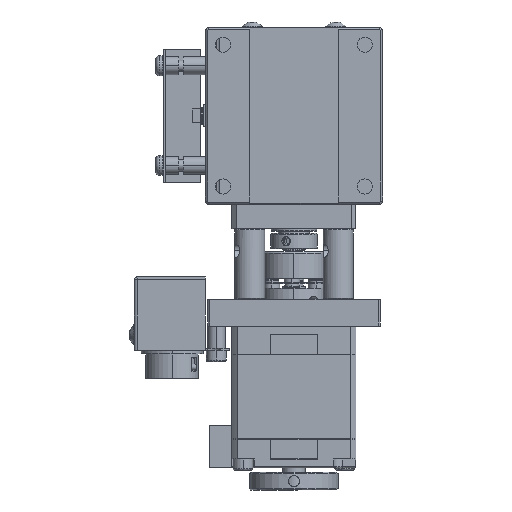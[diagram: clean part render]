
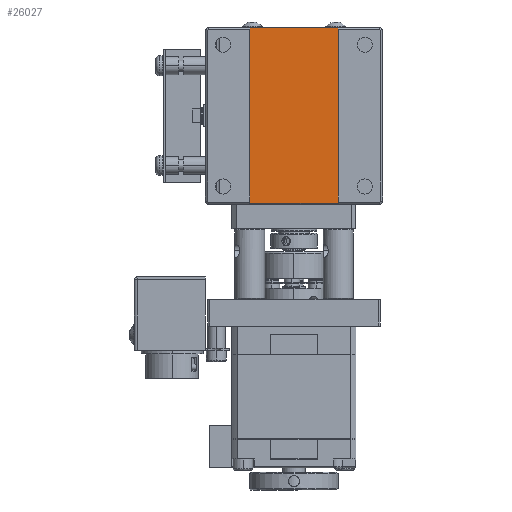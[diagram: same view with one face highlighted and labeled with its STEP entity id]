
A CAD part, front view. The second image highlights one B-rep face of the part: STEP entity #26027.
In plain terms, the highlighted planar face has unit normal (0, -1, 0).
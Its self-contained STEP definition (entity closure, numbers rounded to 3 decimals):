
#1515 = DIRECTION ( 'NONE',  ( 0., -1., 0. ) ) ;
#4063 = EDGE_CURVE ( 'NONE', #49009, #51274, #23415, .T. ) ;
#4981 = CARTESIAN_POINT ( 'NONE',  ( -14.516, -14.526, 37.978 ) ) ;
#6159 = CARTESIAN_POINT ( 'NONE',  ( -44.516, -14.526, 37.778 ) ) ;
#6294 = CARTESIAN_POINT ( 'NONE',  ( -34.516, -14.526, 37.978 ) ) ;
#8362 = CARTESIAN_POINT ( 'NONE',  ( -14.516, -14.526, 77.578 ) ) ;
#8660 = VECTOR ( 'NONE', #15676, 1000. ) ;
#9857 = VECTOR ( 'NONE', #41729, 1000. ) ;
#12097 = VERTEX_POINT ( 'NONE', #22425 ) ;
#14746 = CARTESIAN_POINT ( 'NONE',  ( -44.516, -14.526, 37.978 ) ) ;
#15315 = LINE ( 'NONE', #31393, #61172 ) ;
#15676 = DIRECTION ( 'NONE',  ( -1., 0., 0. ) ) ;
#15723 = FACE_OUTER_BOUND ( 'NONE', #59191, .T. ) ;
#17961 = LINE ( 'NONE', #36551, #49903 ) ;
#20033 = CARTESIAN_POINT ( 'NONE',  ( -44.516, -14.526, 77.578 ) ) ;
#20058 = VERTEX_POINT ( 'NONE', #8362 ) ;
#22425 = CARTESIAN_POINT ( 'NONE',  ( -34.516, -14.526, 77.578 ) ) ;
#23415 = LINE ( 'NONE', #14746, #9857 ) ;
#26027 = ADVANCED_FACE ( 'NONE', ( #15723 ), #38350, .T. ) ;
#26763 = DIRECTION ( 'NONE',  ( 0., 0., -1. ) ) ;
#28677 = ORIENTED_EDGE ( 'NONE', *, *, #4063, .T. ) ;
#30580 = EDGE_CURVE ( 'NONE', #20058, #12097, #33685, .T. ) ;
#31393 = CARTESIAN_POINT ( 'NONE',  ( -34.516, -14.526, 37.778 ) ) ;
#33685 = LINE ( 'NONE', #20033, #8660 ) ;
#34648 = DIRECTION ( 'NONE',  ( -1., 0., 0. ) ) ;
#35667 = ORIENTED_EDGE ( 'NONE', *, *, #58413, .T. ) ;
#36551 = CARTESIAN_POINT ( 'NONE',  ( -14.516, -14.526, 37.778 ) ) ;
#36861 = DIRECTION ( 'NONE',  ( 0., 0., 1. ) ) ;
#38350 = PLANE ( 'NONE',  #41332 ) ;
#41272 = EDGE_CURVE ( 'NONE', #51274, #20058, #17961, .T. ) ;
#41332 = AXIS2_PLACEMENT_3D ( 'NONE', #6159, #1515, #34648 ) ;
#41729 = DIRECTION ( 'NONE',  ( 1., 0., 0. ) ) ;
#48023 = ORIENTED_EDGE ( 'NONE', *, *, #30580, .T. ) ;
#48922 = ORIENTED_EDGE ( 'NONE', *, *, #41272, .T. ) ;
#49009 = VERTEX_POINT ( 'NONE', #6294 ) ;
#49903 = VECTOR ( 'NONE', #36861, 1000. ) ;
#51274 = VERTEX_POINT ( 'NONE', #4981 ) ;
#58413 = EDGE_CURVE ( 'NONE', #12097, #49009, #15315, .T. ) ;
#59191 = EDGE_LOOP ( 'NONE', ( #48023, #35667, #28677, #48922 ) ) ;
#61172 = VECTOR ( 'NONE', #26763, 1000. ) ;
